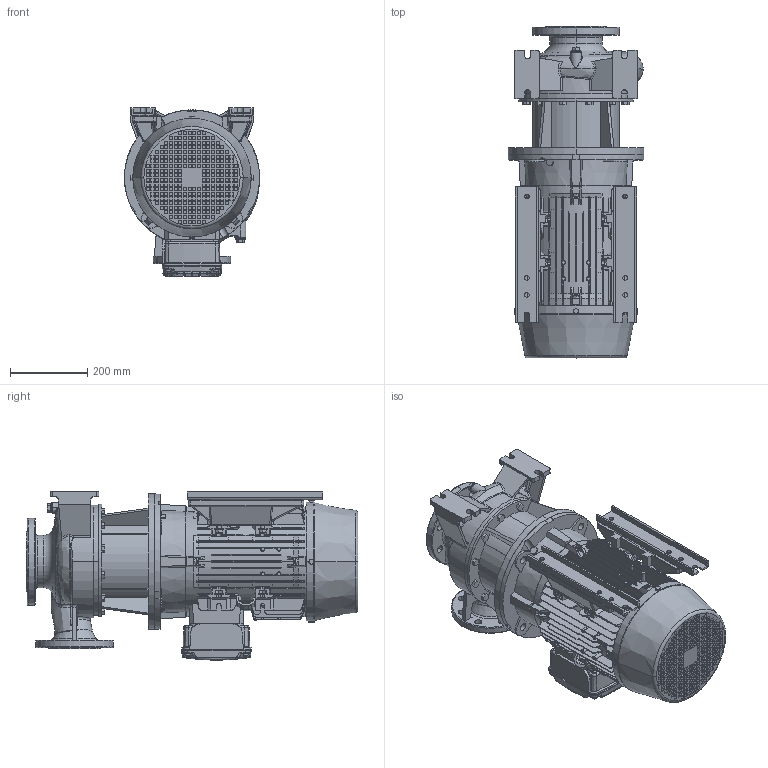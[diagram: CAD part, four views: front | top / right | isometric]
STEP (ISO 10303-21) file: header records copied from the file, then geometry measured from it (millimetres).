
FILE_DESCRIPTION (( 'STEP AP214' ), '1' );
FILE_NAME ('3LS 80-160_11.0, 15.0 & 18.5_(160ML)_W21.STEP', '2026-01-19T01:19:55', ( '' ), ( '' ), 'SwSTEP 2.0', 'SolidWorks 2019', '' );
FILE_SCHEMA (( 'AUTOMOTIVE_DESIGN' ));
Length unit declared in the file: inch
Products named in the file (3): 3LS 80-160_11.0, 15.0 & 18.5_(160ML)_W21; 80-160_11_ie2_STEP; 160M_L_ALIE3_W21T_B35
Assembly tree (2 placements, depth 2):
  3LS 80-160_11.0, 15.0 & 18.5_(160ML)_W21
    80-160_11_ie2_STEP
    160M_L_ALIE3_W21T_B35
Bounding box: 350 x 857.3 x 434.5 mm (x, y, z)
Volume: 46532780.3 mm3; surface area: 3089653.4 mm2
Topology: 32 solids, 38 shells, 5226 faces, 13484 edges, 8729 vertices
Faces by surface type: plane 3498, cylinder 725, cone 448, bspline 423, torus 106, sphere 26
Entity records: 262944 total; most frequent: CARTESIAN_POINT 72798, ORIENTED_EDGE 26896, DIRECTION 22374, EDGE_CURVE 13448, VECTOR 8998, LINE 8998, VERTEX_POINT 8721, AXIS2_PLACEMENT_3D 6688
